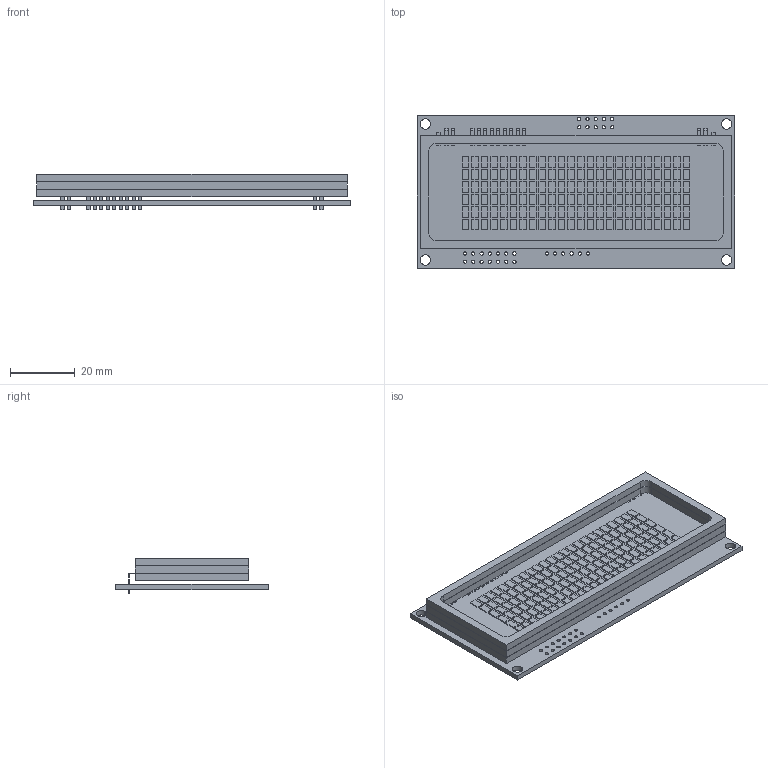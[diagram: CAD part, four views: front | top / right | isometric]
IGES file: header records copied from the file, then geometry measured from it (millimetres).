
Start section:  PTC IGES file: cu24063-y.igs
Global section: file name: cu24063-y.igs; native system: Pro/ENGINEER by Parametric Technology Corporation; preprocessor: 2010280; author: samx; organization: Unknown; date: 20140522.110935; units: millimetre
Bounding box: 98 x 47 x 10.95 mm (x, y, z)
Volume: 17914.4 mm3; surface area: 22520.2 mm2
Topology: 2 solids, 2 shells, 1051 faces, 2758 edges, 1828 vertices
Faces by surface type: bspline 949, revolution 102
